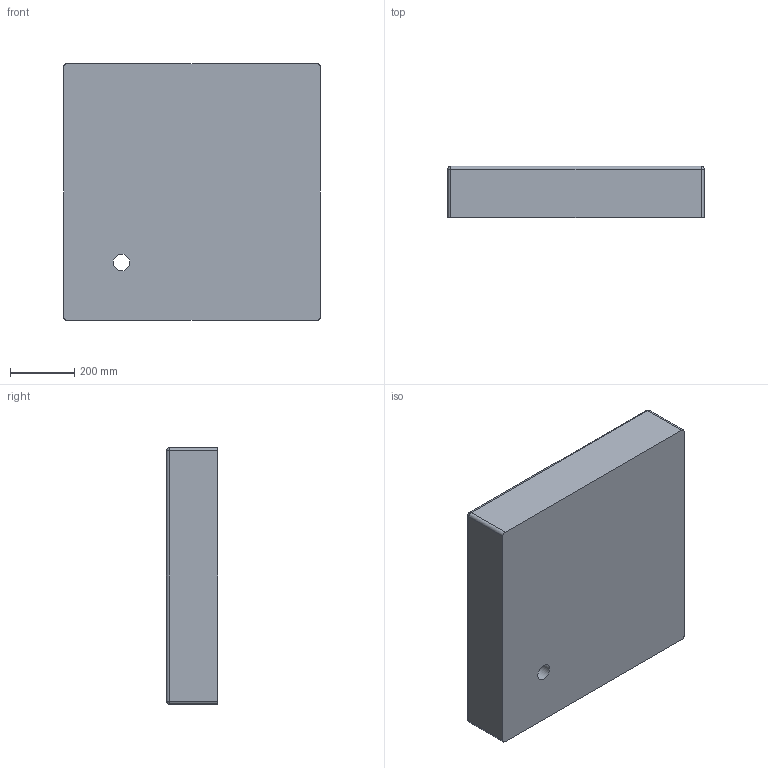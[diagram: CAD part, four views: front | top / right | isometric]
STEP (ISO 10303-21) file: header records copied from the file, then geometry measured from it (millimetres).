
FILE_DESCRIPTION(/* description */ (''),/* implementation_level */ '2;1');
FILE_NAME(/* name */ 'D:\Omnires\Export_Omnires\rys_step\5902539822533_stp.stp',/* time_stamp */ '2020-07-27T15:33:44+02:00',/* author */ (''),/* organization */ (''),/* preprocessor_version */ 'ST-DEVELOPER v18.1',/* originating_system */ 'Autodesk Inventor 2020',/* authorisation */ '');
FILE_SCHEMA (('AUTOMOTIVE_DESIGN { 1 0 10303 214 3 1 1 }'));
Length unit declared in the file: millimetre
Products named in the file (1): 5902539822533_dwg
Bounding box: 800 x 160 x 800 mm (x, y, z)
Surface area: 1842736.8 mm2 (no closed solid volume)
Topology: 0 solids, 1 shells, 47 faces, 129 edges, 107 vertices
Faces by surface type: cylinder 17, plane 11, torus 10, cone 5, sphere 4
Full cylindrical faces by diameter (mm): 52 x1
Entity records: 1539 total; most frequent: DIRECTION 272, CARTESIAN_POINT 264, ORIENTED_EDGE 210, AXIS2_PLACEMENT_3D 113, EDGE_CURVE 105, STYLED_ITEM 71, CIRCLE 65, VERTEX_POINT 61
